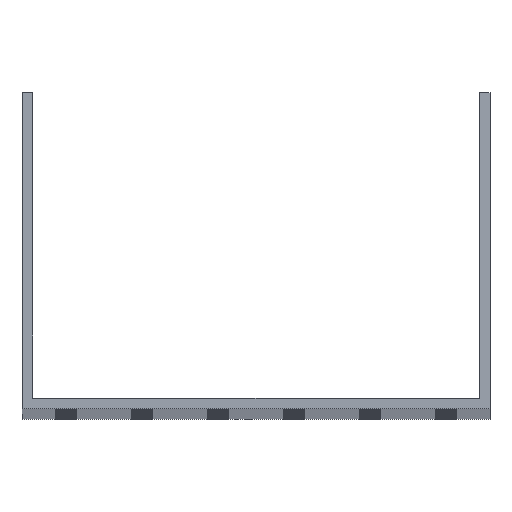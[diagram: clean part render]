
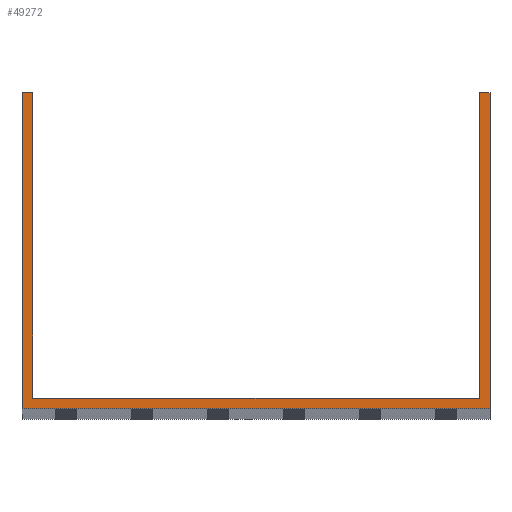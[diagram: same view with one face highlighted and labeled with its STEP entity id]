
A CAD part, top view. The second image highlights one B-rep face of the part: STEP entity #49272.
In plain terms, the highlighted planar face has unit normal (0, 0, 1).
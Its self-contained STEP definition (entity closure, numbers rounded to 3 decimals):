
#18 = CARTESIAN_POINT ( 'NONE',  ( -73.5, 104., 1000. ) ) ;
#98 = CARTESIAN_POINT ( 'NONE',  ( 73.5, 3.5, 1000. ) ) ;
#210 = DIRECTION ( 'NONE',  ( 1., 0., 0. ) ) ;
#343 = DIRECTION ( 'NONE',  ( 1., 0., 0. ) ) ;
#1187 = EDGE_CURVE ( 'NONE', #73829, #12162, #64130, .T. ) ;
#1513 = ORIENTED_EDGE ( 'NONE', *, *, #76355, .F. ) ;
#1725 = CARTESIAN_POINT ( 'NONE',  ( -77., 104., 1000. ) ) ;
#3334 = LINE ( 'NONE', #33516, #42704 ) ;
#6159 = VECTOR ( 'NONE', #38730, 1000. ) ;
#6462 = VECTOR ( 'NONE', #58459, 1000. ) ;
#8124 = DIRECTION ( 'NONE',  ( 0., -1., 0. ) ) ;
#8711 = LINE ( 'NONE', #15052, #49424 ) ;
#10514 = CARTESIAN_POINT ( 'NONE',  ( 73.5, 104., 1000. ) ) ;
#11098 = CARTESIAN_POINT ( 'NONE',  ( 73.5, 104., 1000. ) ) ;
#12162 = VERTEX_POINT ( 'NONE', #11098 ) ;
#12663 = LINE ( 'NONE', #54762, #23639 ) ;
#14266 = AXIS2_PLACEMENT_3D ( 'NONE', #39356, #75904, #57608 ) ;
#15052 = CARTESIAN_POINT ( 'NONE',  ( 77., 104., 1000. ) ) ;
#15184 = CARTESIAN_POINT ( 'NONE',  ( -77., 104., 1000. ) ) ;
#15561 = LINE ( 'NONE', #64813, #6462 ) ;
#15567 = DIRECTION ( 'NONE',  ( -1., 0., 0. ) ) ;
#16859 = DIRECTION ( 'NONE',  ( 0., 1., 0. ) ) ;
#18871 = CARTESIAN_POINT ( 'NONE',  ( -77., 0., 1000. ) ) ;
#22038 = ORIENTED_EDGE ( 'NONE', *, *, #26432, .T. ) ;
#22426 = EDGE_CURVE ( 'NONE', #29765, #73829, #12663, .T. ) ;
#23639 = VECTOR ( 'NONE', #343, 1000. ) ;
#26432 = EDGE_CURVE ( 'NONE', #65800, #48168, #38345, .T. ) ;
#29765 = VERTEX_POINT ( 'NONE', #32376 ) ;
#30608 = VERTEX_POINT ( 'NONE', #42943 ) ;
#30653 = ORIENTED_EDGE ( 'NONE', *, *, #1187, .F. ) ;
#32376 = CARTESIAN_POINT ( 'NONE',  ( -73.5, 3.5, 1000. ) ) ;
#32777 = CARTESIAN_POINT ( 'NONE',  ( -77., 104., 1000. ) ) ;
#33516 = CARTESIAN_POINT ( 'NONE',  ( -73.5, 104., 1000. ) ) ;
#35333 = VERTEX_POINT ( 'NONE', #44917 ) ;
#38345 = LINE ( 'NONE', #32777, #6159 ) ;
#38730 = DIRECTION ( 'NONE',  ( -1., 0., 0. ) ) ;
#39356 = CARTESIAN_POINT ( 'NONE',  ( 0., 0., 1000. ) ) ;
#41947 = LINE ( 'NONE', #18871, #73875 ) ;
#42704 = VECTOR ( 'NONE', #8124, 1000. ) ;
#42943 = CARTESIAN_POINT ( 'NONE',  ( -77., 0., 1000. ) ) ;
#44382 = EDGE_CURVE ( 'NONE', #30608, #69955, #41947, .T. ) ;
#44917 = CARTESIAN_POINT ( 'NONE',  ( 77., 104., 1000. ) ) ;
#45681 = EDGE_CURVE ( 'NONE', #35333, #12162, #70388, .T. ) ;
#48168 = VERTEX_POINT ( 'NONE', #1725 ) ;
#49077 = EDGE_LOOP ( 'NONE', ( #1513, #22038, #69425, #51779, #76616, #51681, #30653, #64985 ) ) ;
#49272 = ADVANCED_FACE ( 'NONE', ( #52840 ), #75501, .T. ) ;
#49424 = VECTOR ( 'NONE', #50424, 1000. ) ;
#50424 = DIRECTION ( 'NONE',  ( 0., 1., 0. ) ) ;
#51681 = ORIENTED_EDGE ( 'NONE', *, *, #45681, .T. ) ;
#51779 = ORIENTED_EDGE ( 'NONE', *, *, #44382, .T. ) ;
#52840 = FACE_OUTER_BOUND ( 'NONE', #49077, .T. ) ;
#54762 = CARTESIAN_POINT ( 'NONE',  ( -77., 3.5, 1000. ) ) ;
#57608 = DIRECTION ( 'NONE',  ( 1., 0., 0. ) ) ;
#58459 = DIRECTION ( 'NONE',  ( 0., -1., 0. ) ) ;
#62966 = EDGE_CURVE ( 'NONE', #48168, #30608, #15561, .T. ) ;
#64130 = LINE ( 'NONE', #10514, #71909 ) ;
#64813 = CARTESIAN_POINT ( 'NONE',  ( -77., 104., 1000. ) ) ;
#64985 = ORIENTED_EDGE ( 'NONE', *, *, #22426, .F. ) ;
#65800 = VERTEX_POINT ( 'NONE', #18 ) ;
#65961 = EDGE_CURVE ( 'NONE', #69955, #35333, #8711, .T. ) ;
#66435 = VECTOR ( 'NONE', #15567, 1000. ) ;
#69425 = ORIENTED_EDGE ( 'NONE', *, *, #62966, .T. ) ;
#69955 = VERTEX_POINT ( 'NONE', #71407 ) ;
#70388 = LINE ( 'NONE', #15184, #66435 ) ;
#71407 = CARTESIAN_POINT ( 'NONE',  ( 77., 0., 1000. ) ) ;
#71909 = VECTOR ( 'NONE', #16859, 1000. ) ;
#73829 = VERTEX_POINT ( 'NONE', #98 ) ;
#73875 = VECTOR ( 'NONE', #210, 1000. ) ;
#75501 = PLANE ( 'NONE',  #14266 ) ;
#75904 = DIRECTION ( 'NONE',  ( 0., 0., 1. ) ) ;
#76355 = EDGE_CURVE ( 'NONE', #65800, #29765, #3334, .T. ) ;
#76616 = ORIENTED_EDGE ( 'NONE', *, *, #65961, .T. ) ;
